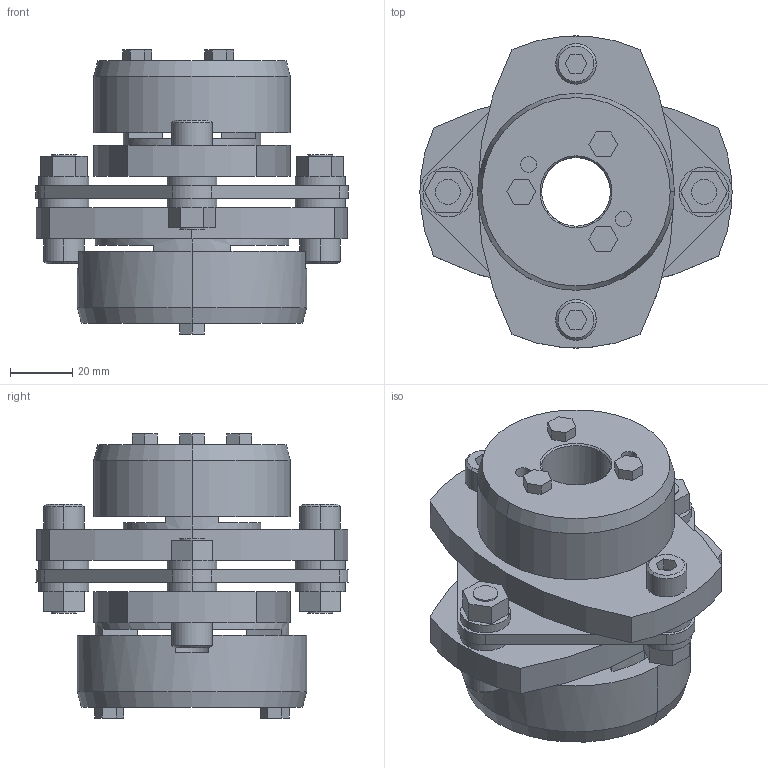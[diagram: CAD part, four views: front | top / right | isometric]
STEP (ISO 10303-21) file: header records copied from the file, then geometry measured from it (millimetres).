
FILE_DESCRIPTION((''),'2;1');
FILE_NAME('LCS-100T7-22×38.stp','2011-09-08T17:01:06',(''),(''),'AutoCAD STEP 2000i','AutoCAD 2000i',', , ');
FILE_SCHEMA(('CONFIG_CONTROL_DESIGN'));
Length unit declared in the file: millimetre
Products named in the file (9): LCS-100T7-22×38; 忣兜1; LC100T7-T038; LC100T7-T035; LC100T7-T030; LC100T7-T025; LC100T7-T022-1; LC100T7-T022; LCS100-ITA
Assembly tree (8 placements, depth 2):
  LCS-100T7-22×38
    忣兜1
    LC100T7-T038
    LC100T7-T035
    LC100T7-T030
    LC100T7-T025
    LC100T7-T022-1
    LC100T7-T022
    LCS100-ITA
Bounding box: 100 x 99.93 x 91 mm (x, y, z)
Volume: 262512.6 mm3; surface area: 64471.6 mm2
Topology: 1 solids, 1 shells, 229 faces, 562 edges, 368 vertices
Faces by surface type: plane 127, cylinder 82, cone 20
Entity records: 7023 total; most frequent: DIRECTION 1242, CARTESIAN_POINT 1168, ORIENTED_EDGE 1124, EDGE_CURVE 562, AXIS2_PLACEMENT_3D 442, VERTEX_POINT 368, VECTOR 358, LINE 358
